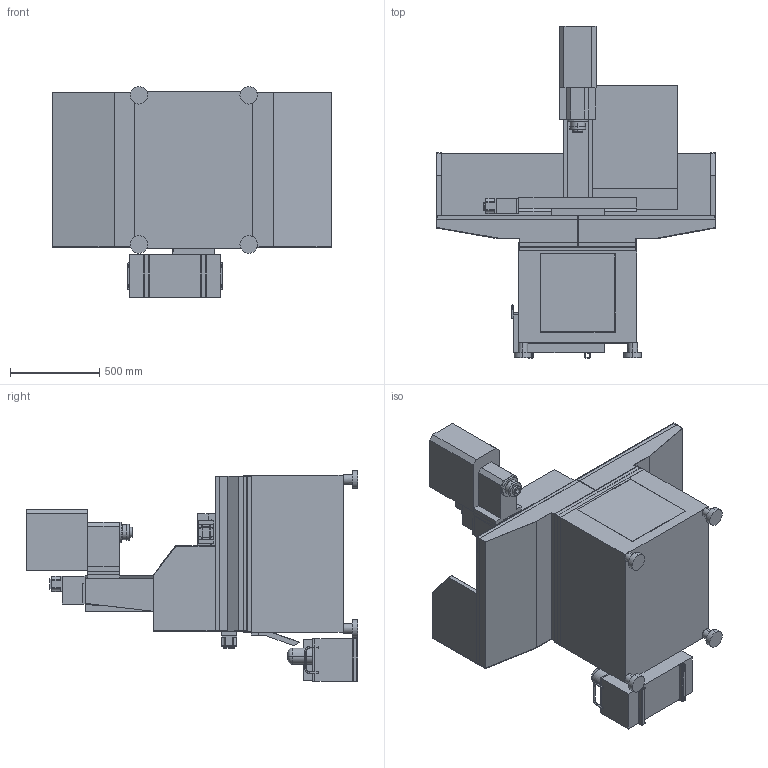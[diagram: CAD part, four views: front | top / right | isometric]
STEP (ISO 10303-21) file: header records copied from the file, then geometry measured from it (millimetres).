
FILE_DESCRIPTION (( 'STEP AP214' ), '1' );
FILE_NAME ('770_BASE_AND_MACHINE_ASSEMBLY.STEP', '2014-07-02T14:19:27', ( '' ), ( '' ), 'SwSTEP 2.0', 'SolidWorks 2012', '' );
FILE_SCHEMA (( 'AUTOMOTIVE_DESIGN' ));
Length unit declared in the file: millimetre
Products named in the file (22): 31191 RIGHT BACK SPLASH; 31191 LEFT BACK SPLASH; 32084 770 PCNC MACHINE; 32084 ELECT LOWER; 32084 770 ELECTRICAL CABINET; 32084 770 SPINDLE NOSE; 32084 770 AXIS MOTOR; 32084 770 Z-AXIS MOTOR MOUNT; 32084 770 X-Y AXIS MOTOR HOUSING; 32084 770 SPINDLE GUARD; 32084 770 SPINDLE HOUSING; 32084 770 Z-AXIS SADDLE; 32084 770 COLUMN; 32084 770 TABLE; 32084 770 X-Y SADDLE; 32084 770 BASE; 31191 COOLANT CHUTE; 31191 COOLANT TANK; 31191 RIGHT TUB; 31191 LEFT TUB; 31191 770 BASE; 770_BASE_AND_MACHINE_ASSEMBLY
Assembly tree (24 placements, depth 3):
  770_BASE_AND_MACHINE_ASSEMBLY
    31191 770 BASE
    31191 LEFT TUB
    31191 RIGHT TUB
    31191 COOLANT TANK
    31191 COOLANT CHUTE
    32084 770 PCNC MACHINE
      32084 770 BASE
      32084 770 X-Y SADDLE
      32084 770 TABLE
      32084 770 COLUMN
      32084 770 Z-AXIS SADDLE
      32084 770 SPINDLE HOUSING
      32084 770 SPINDLE GUARD
      32084 770 X-Y AXIS MOTOR HOUSING  x2
      32084 770 Z-AXIS MOTOR MOUNT
      32084 770 AXIS MOTOR  x3
      32084 770 SPINDLE NOSE
      32084 770 ELECTRICAL CABINET
      32084 ELECT LOWER
    31191 LEFT BACK SPLASH
    31191 RIGHT BACK SPLASH
Bounding box: 1564 x 1859 x 1182 mm (x, y, z)
Volume: 469202065.8 mm3; surface area: 15358746.3 mm2
Topology: 40 solids, 40 shells, 904 faces, 2279 edges, 1449 vertices
Faces by surface type: plane 650, cylinder 175, torus 36, sphere 24, cone 19
Entity records: 24193 total; most frequent: CARTESIAN_POINT 4040, ORIENTED_EDGE 3902, DIRECTION 3868, EDGE_CURVE 1951, VECTOR 1634, LINE 1634, VERTEX_POINT 1273, AXIS2_PLACEMENT_3D 1117
